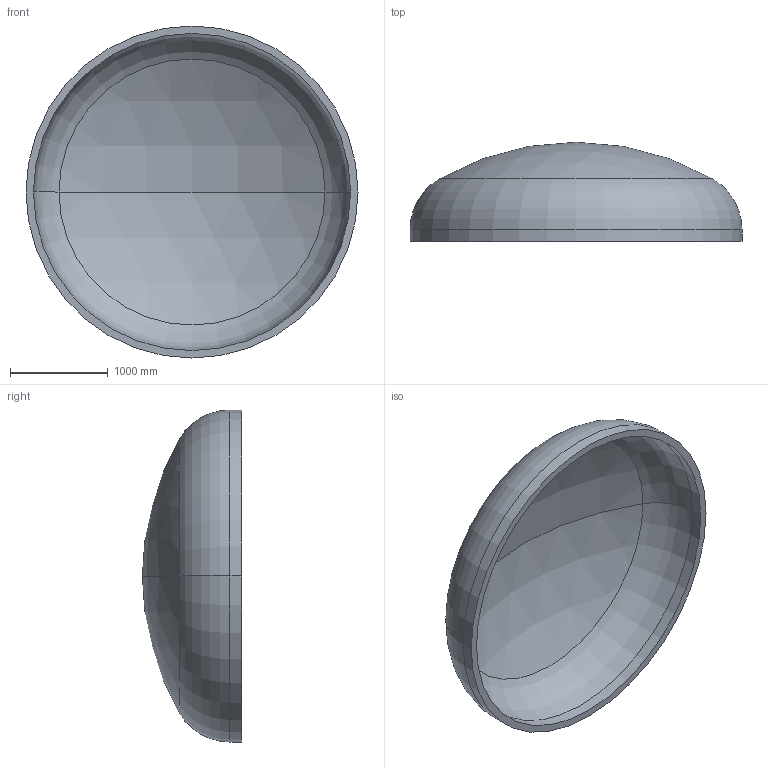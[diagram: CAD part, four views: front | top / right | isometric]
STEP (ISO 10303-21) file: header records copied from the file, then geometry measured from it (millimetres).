
FILE_DESCRIPTION (( 'STEP AP203' ), '1' );
FILE_NAME ('DIN 28013 Korbbogenform_-_Boden DIN 28013 - 3400 x 120 - I - s=76.step', '2016-07-01T19:44:32', ( '' ), ( '' ), 'SwSTEP 2.0', 'SolidWorks 2013', '' );
FILE_SCHEMA (( 'CONFIG_CONTROL_DESIGN' ));
Length unit declared in the file: millimetre
Products named in the file (1): DIN 28013 Korbbogenform_-_Boden DIN 28013 - 3400 x 120 - I - s=76
Bounding box: 3400 x 1015.94 x 3400 mm (x, y, z)
Volume: 1023731027.5 mm3; surface area: 27746020 mm2
Topology: 1 solids, 1 shells, 13 faces, 24 edges, 14 vertices
Faces by surface type: torus 4, cylinder 4, sphere 4, plane 1
Entity records: 407 total; most frequent: DIRECTION 72, CARTESIAN_POINT 52, ORIENTED_EDGE 48, AXIS2_PLACEMENT_3D 34, EDGE_CURVE 24, CIRCLE 20, EDGE_LOOP 14, VERTEX_POINT 14
